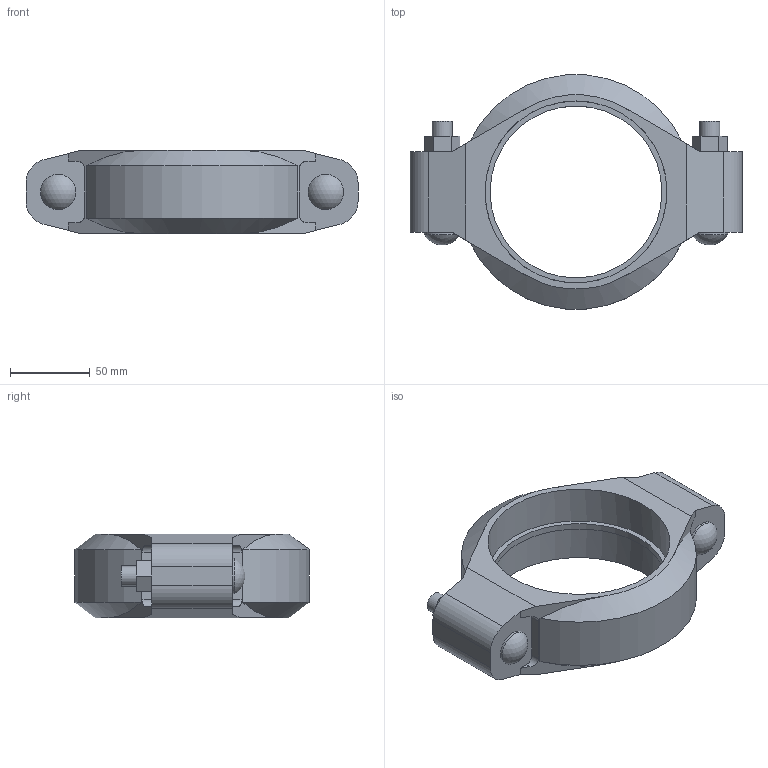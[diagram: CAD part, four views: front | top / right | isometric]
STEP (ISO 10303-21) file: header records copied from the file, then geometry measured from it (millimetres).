
FILE_DESCRIPTION(/* description */ ('VIC COUPLING STYLE 07 RIGID','CAx-IF Rec.Pracs.---Representation and Presentation of Product Manufacturing Information (PMI)---4.0---2014-10-13'),/* implementation_level */ '2;1');
FILE_NAME(/* name */ 'C:\Users\kkamble\Desktop\KIRAN\2022\Updated Couplings\007\Victaulic_IPS_Coupling Rigid_Style 07 (OGS)\Victaulic_IPS_Coupling Rigid_Style 07 (OGS)_4 (100).stp',/* time_stamp */ '2022-03-25T09:56:35+05:00',/* author */ ('jheald'),/* organization */ ('Victaulic'),/* preprocessor_version */ 'ST-DEVELOPER v17.2',/* originating_system */ 'Autodesk Inventor 2019',/* authorisation */ '');
FILE_SCHEMA (('AP242_MANAGED_MODEL_BASED_3D_ENGINEERING_MIM_LF { 1 0 10303 442 1 1 4 }'));
Length unit declared in the file: inch
Products named in the file (1): 07-04.0
Bounding box: 208.53 x 147.02 x 52.58 mm (x, y, z)
Volume: 466136 mm3; surface area: 78591.8 mm2
Topology: 1 solids, 3 shells, 87 faces, 239 edges, 162 vertices
Faces by surface type: plane 54, cylinder 27, cone 4, sphere 2
Full cylindrical faces by diameter (mm): 12.7 x4, 22.225 x2, 107.95 x1, 114.3 x2
Entity records: 3036 total; most frequent: CARTESIAN_POINT 522, DIRECTION 507, ORIENTED_EDGE 478, EDGE_CURVE 239, AXIS2_PLACEMENT_3D 175, VERTEX_POINT 162, LINE 157, VECTOR 157
